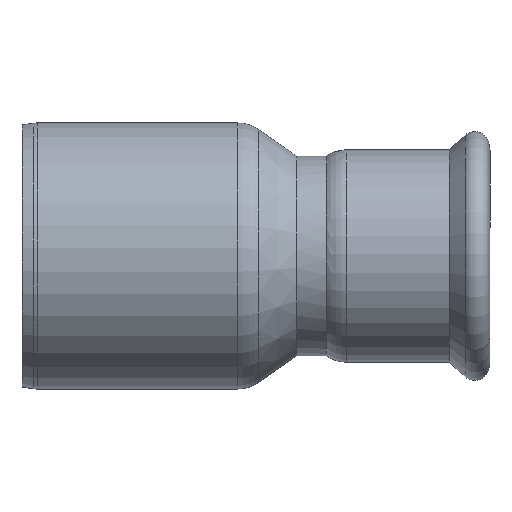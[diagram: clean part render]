
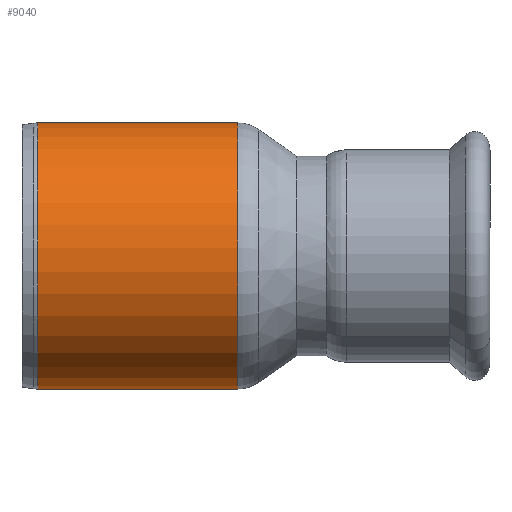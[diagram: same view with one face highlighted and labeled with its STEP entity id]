
A CAD part, front view. The second image highlights one B-rep face of the part: STEP entity #9040.
In plain terms, the highlighted cylindrical face has radius 44.45 mm (diameter 88.9 mm), a partial arc.
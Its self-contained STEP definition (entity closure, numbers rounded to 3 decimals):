
#110=CARTESIAN_POINT('',(-88.223,2.554,
44.377));
#120=VERTEX_POINT('',#110);
#310=CARTESIAN_POINT('',(-88.223,-2.554,
-44.377));
#320=VERTEX_POINT('',#310);
#350=CARTESIAN_POINT('',(-88.223,0.,
0.));
#360=DIRECTION('',(1.,0.,0.));
#370=DIRECTION('',(0.,0.057,
0.998));
#380=AXIS2_PLACEMENT_3D('',#350,#360,#370);
#390=CIRCLE('',#380,44.45);
#3450=CARTESIAN_POINT('',(-21.432,-2.554,
-44.377));
#3460=VERTEX_POINT('',#3450);
#3550=CARTESIAN_POINT('',(-21.432,2.554,
44.377));
#3560=VERTEX_POINT('',#3550);
#3590=CARTESIAN_POINT('',(-21.432,0.,
0.));
#3600=DIRECTION('',(1.,0.,0.));
#3610=DIRECTION('',(0.,0.057,
0.998));
#3620=AXIS2_PLACEMENT_3D('',#3590,#3600,#3610);
#3630=CIRCLE('',#3620,44.45);
#3690=CARTESIAN_POINT('',(-54.452,0.,
0.));
#3700=DIRECTION('',(1.,0.,0.));
#3710=DIRECTION('',(0.,0.057,
0.998));
#3720=AXIS2_PLACEMENT_3D('',#3690,#3700,#3710);
#3730=CYLINDRICAL_SURFACE('',#3720,44.45);
#3740=CARTESIAN_POINT('',(-54.452,-2.554,
-44.377));
#3750=DIRECTION('',(1.,0.,0.));
#3760=VECTOR('',#3750,1.);
#3770=LINE('',#3740,#3760);
#3780=EDGE_CURVE('',#320,#3460,#3770,.T.);
#3810=CARTESIAN_POINT('',(-54.452,2.554,
44.377));
#3820=DIRECTION('',(1.,0.,0.));
#3830=VECTOR('',#3820,1.);
#3840=LINE('',#3810,#3830);
#3850=EDGE_CURVE('',#120,#3560,#3840,.T.);
#8960=EDGE_CURVE('',#3560,#3460,#3630,.T.);
#8970=ORIENTED_EDGE('',*,*,#8960,.F.);
#8980=ORIENTED_EDGE('',*,*,#3780,.T.);
#8990=EDGE_CURVE('',#120,#320,#390,.T.);
#9000=ORIENTED_EDGE('',*,*,#8990,.T.);
#9010=ORIENTED_EDGE('',*,*,#3850,.F.);
#9020=EDGE_LOOP('',(#9010,#9000,#8980,#8970));
#9030=FACE_OUTER_BOUND('',#9020,.T.);
#9040=ADVANCED_FACE('',(#9030),#3730,.T.);
